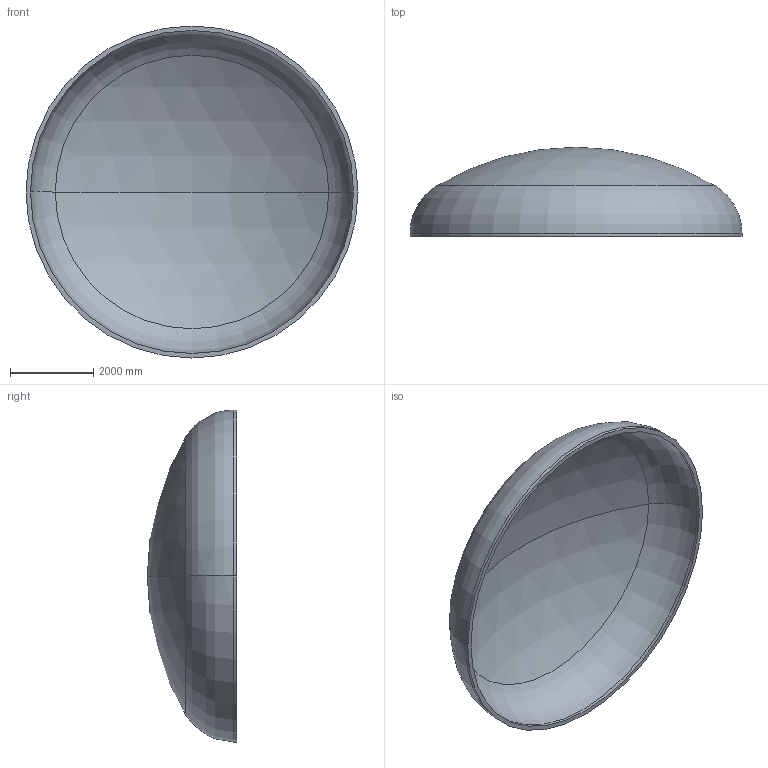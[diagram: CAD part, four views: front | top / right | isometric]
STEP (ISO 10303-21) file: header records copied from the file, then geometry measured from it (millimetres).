
FILE_DESCRIPTION (( 'STEP AP203' ), '1' );
FILE_NAME ('DIN 28013 Korbbogenform_-_Boden DIN 28013 - 8000 x 75 - I - s=108.step', '2016-07-04T11:05:35', ( '' ), ( '' ), 'SwSTEP 2.0', 'SolidWorks 2013', '' );
FILE_SCHEMA (( 'CONFIG_CONTROL_DESIGN' ));
Length unit declared in the file: millimetre
Products named in the file (1): DIN 28013 Korbbogenform_-_Boden DIN 28013 - 8000 x 75 - I - s=108
Bounding box: 8000 x 2151 x 8000 mm (x, y, z)
Volume: 7584152603.1 mm3; surface area: 143149337.5 mm2
Topology: 1 solids, 1 shells, 13 faces, 24 edges, 14 vertices
Faces by surface type: torus 4, cylinder 4, sphere 4, plane 1
Entity records: 407 total; most frequent: DIRECTION 72, CARTESIAN_POINT 52, ORIENTED_EDGE 48, AXIS2_PLACEMENT_3D 34, EDGE_CURVE 24, CIRCLE 20, EDGE_LOOP 14, VERTEX_POINT 14
